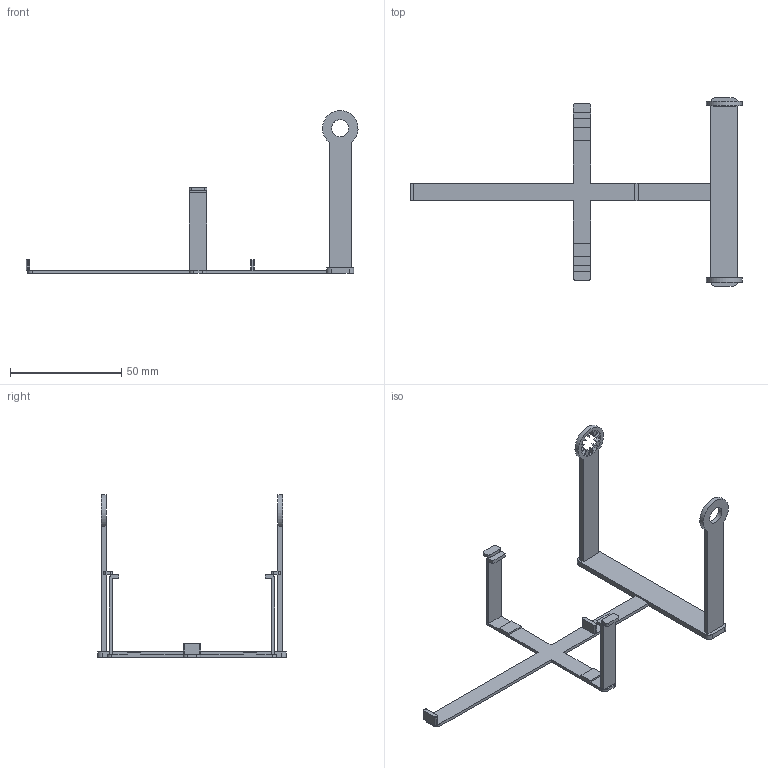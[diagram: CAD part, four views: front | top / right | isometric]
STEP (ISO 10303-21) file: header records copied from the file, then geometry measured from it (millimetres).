
FILE_DESCRIPTION(('Open CASCADE Model'),'2;1');
FILE_NAME('Open CASCADE Shape Model','2026-10-14T00:15:15',('Author'),( 'Open CASCADE'),'Open CASCADE STEP processor 8.0','build123d', 'Unknown');
FILE_SCHEMA(('AUTOMOTIVE_DESIGN { 1 0 10303 214 1 1 1 1 }'));
Length unit declared in the file: millimetre
Products named in the file (1): COMPOUND
Bounding box: 149.34 x 84.8 x 73.17 mm (x, y, z)
Volume: 8953.6 mm3; surface area: 11743.3 mm2
Topology: 1 solids, 1 shells, 157 faces, 449 edges, 296 vertices
Faces by surface type: plane 114, cylinder 43
Full cylindrical faces by diameter (mm): 7.7 x1
Entity records: 10964 total; most frequent: CARTESIAN_POINT 2333, DIRECTION 1529, LINE 979, VECTOR 979, ORIENTED_EDGE 898, PCURVE 898, DEFINITIONAL_REPRESENTATION 898, EDGE_CURVE 449
